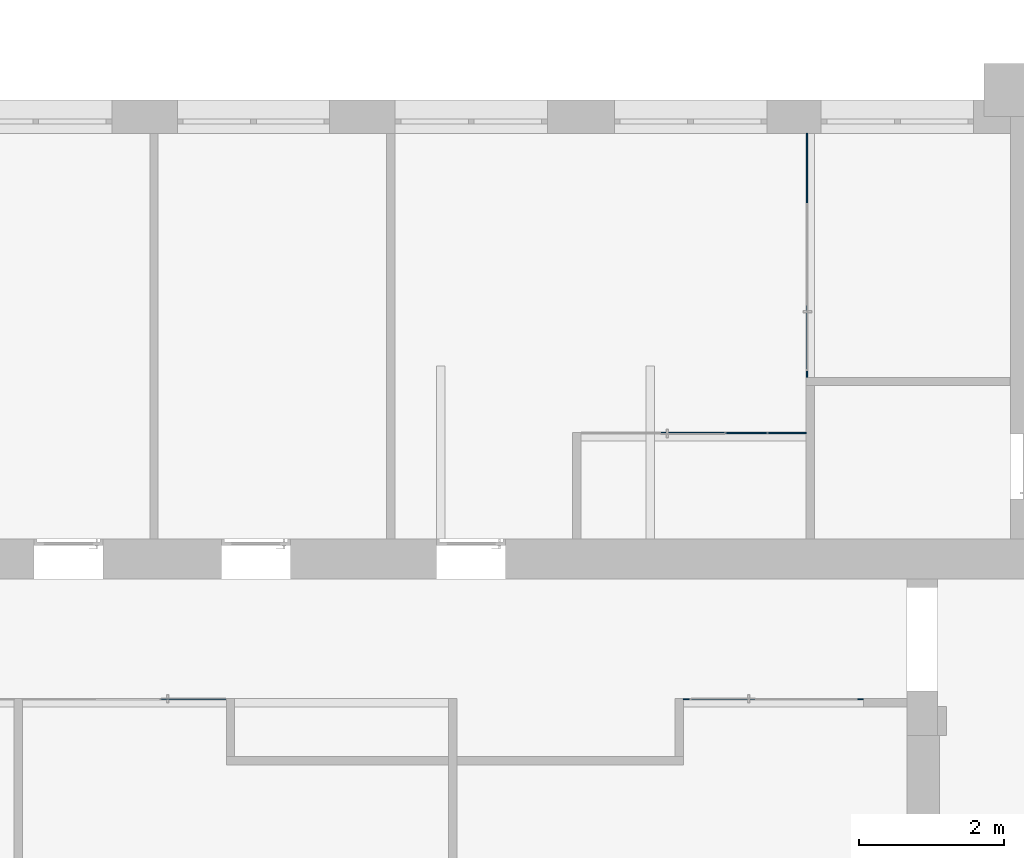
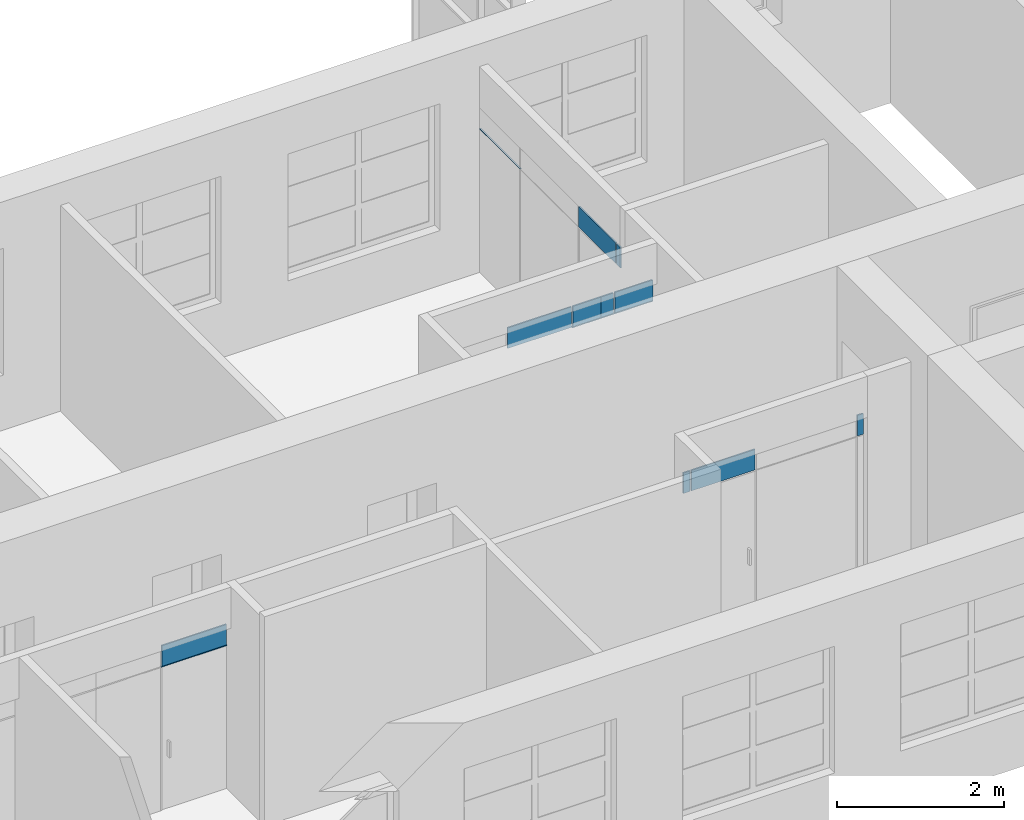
# One storey, part 42 of 73: 15 plates, 4 elements without a shape of their own.
"""IFC2X3 building model written with IfcOpenShell, lengths in millimetres."""

from ifc_helpers import new_model, entity, si_unit, converted_unit, derived_unit, direction, frame, origin, origin_2d_with_axis, place, context, subcontext, project, spatial, rectangle, extrude, source, transform, mapped, material, layer, layer_set, layer_usage, type_object, type_shapes, element, aggregate, save


model = new_model("IFC2X3")

# Units and contexts
model_context = context("Model", 3, precision=0.01, world=origin(), true_north=direction((6.12303176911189e-17, 1.0)))
body_context = subcontext(model_context, "Body", "Model", "MODEL_VIEW")
ifc_project = project(units=[si_unit("LENGTHUNIT", "METRE", prefix="MILLI"), si_unit("AREAUNIT", "SQUARE_METRE"), si_unit("VOLUMEUNIT", "CUBIC_METRE"), converted_unit("PLANEANGLEUNIT", "DEGREE", entity("IfcRatioMeasure", 0.0174532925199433), si_unit("PLANEANGLEUNIT", "RADIAN"), dimensions=[0, 0, 0, 0, 0, 0, 0]), si_unit("MASSUNIT", "GRAM", prefix="KILO"), derived_unit("MASSDENSITYUNIT", [(si_unit("MASSUNIT", "GRAM", prefix="KILO"), 1), (si_unit("LENGTHUNIT", "METRE"), -3)]), si_unit("TIMEUNIT", "SECOND"), si_unit("FREQUENCYUNIT", "HERTZ"), si_unit("THERMODYNAMICTEMPERATUREUNIT", "DEGREE_CELSIUS"), derived_unit("THERMALTRANSMITTANCEUNIT", [(si_unit("MASSUNIT", "GRAM", prefix="KILO"), 1), (si_unit("THERMODYNAMICTEMPERATUREUNIT", "KELVIN"), -1), (si_unit("TIMEUNIT", "SECOND"), -3)]), derived_unit("VOLUMETRICFLOWRATEUNIT", [(si_unit("LENGTHUNIT", "METRE"), 3), (si_unit("TIMEUNIT", "SECOND"), -1)]), si_unit("ELECTRICCURRENTUNIT", "AMPERE"), si_unit("ELECTRICVOLTAGEUNIT", "VOLT"), si_unit("POWERUNIT", "WATT"), si_unit("FORCEUNIT", "NEWTON", prefix="KILO"), si_unit("ILLUMINANCEUNIT", "LUX"), si_unit("LUMINOUSFLUXUNIT", "LUMEN"), si_unit("LUMINOUSINTENSITYUNIT", "CANDELA"), derived_unit("USERDEFINED", [(si_unit("MASSUNIT", "GRAM", prefix="KILO"), -1), (si_unit("LENGTHUNIT", "METRE"), -2), (si_unit("TIMEUNIT", "SECOND"), 3), (si_unit("LUMINOUSFLUXUNIT", "LUMEN"), 1)]), derived_unit("LINEARVELOCITYUNIT", [(si_unit("LENGTHUNIT", "METRE"), 1), (si_unit("TIMEUNIT", "SECOND"), -1)]), si_unit("PRESSUREUNIT", "PASCAL"), derived_unit("USERDEFINED", [(si_unit("LENGTHUNIT", "METRE"), -2), (si_unit("MASSUNIT", "GRAM", prefix="KILO"), 1), (si_unit("TIMEUNIT", "SECOND"), -2)])], contexts=[model_context])

# Site, building, storey
site_placement = place(None, frame((-151.875543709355, 2715.0, 0.0)))
site = spatial("IfcSite", under=ifc_project, at=site_placement, Name="Surface", CompositionType="ELEMENT")
building_placement = place(site_placement, origin())
building = spatial("IfcBuilding", under=site, at=building_placement, CompositionType="ELEMENT")
storey_placement = place(building_placement, frame((0.0, 0.0, 6730.43000000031)))
storey = spatial("IfcBuildingStorey", under=building, at=storey_placement, Name="3 korrus", CompositionType="ELEMENT", Elevation=6730.43000000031)

# Curtain wall, plate
curtain_wall_type_1 = type_object("IfcCurtainWallType", Name="Curtain Wall:Klaassein KLS-19", PredefinedType="NOTDEFINED")
curtain_wall_1_placement = place(storey_placement, frame((0.0, 0.0, -6730.43000000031)))
curtain_wall_1 = element("IfcCurtainWall", 1, at=curtain_wall_1_placement, inside=storey, type_object=curtain_wall_type_1, Name="Curtain Wall:Klaassein KLS-19", ObjectType="Curtain Wall:Klaassein KLS-19")
ifc_material = material(Name="<Unnamed>")
ifc_layer = layer(ifc_material, 20.0)
ifc_layer_set = layer_set([ifc_layer], Name="Curtain Wall:Klaassein KLS-01")
ifc_layer_usage_1 = layer_usage(ifc_layer_set, "AXIS3", "POSITIVE", 0.0)
plate_type_1 = type_object("IfcPlateType", Name="Glazed", PredefinedType="CURTAIN_PANEL", material=ifc_layer_set)
shared_shape_1 = source(origin(), body_context, "Body", "SweptSolid", [
    extrude(rectangle(XDim=20.0, YDim=900.0000003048, at=origin_2d_with_axis()), frame((0.0, 0.0, 0.0), z_axis=(0.0, 0.0, 1.0), x_axis=(0.0, 1.0, 0.0)), (0.0, 0.0, 1.0), 9.99999999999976),
])
type_shapes(plate_type_1, [shared_shape_1])
plate_1_placement = place(curtain_wall_1_placement, frame((20713.0647262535, 4355.04493399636, 8820.43000000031), z_axis=(0.0, 0.0, 1.0), x_axis=(-1.0, 0.0, 0.0)))
plate_1 = element("IfcPlate", 2, at=plate_1_placement, type_object=plate_type_1, material=ifc_layer_usage_1, Name="System Panel:Glazed", ObjectType="Glazed", context=body_context, shape_type="MappedRepresentation", body=[
    mapped(shared_shape_1, transform((0.0, 0.0, 0.0), scale=1.0)),
])

curtain_wall_type_2 = type_object("IfcCurtainWallType", Name="Curtain Wall:Klaassein KLS-20", PredefinedType="NOTDEFINED")
curtain_wall_2_placement = place(storey_placement, frame((0.0, 0.0, -6730.43000000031)))
curtain_wall_2 = element("IfcCurtainWall", 3, at=curtain_wall_2_placement, inside=storey, type_object=curtain_wall_type_2, Name="Curtain Wall:Klaassein KLS-20", ObjectType="Curtain Wall:Klaassein KLS-20")
ifc_layer_usage_2 = layer_usage(ifc_layer_set, "AXIS3", "POSITIVE", 0.0)
plate_type_2 = type_object("IfcPlateType", Name="Glazed", PredefinedType="CURTAIN_PANEL", material=ifc_layer_set)
shared_shape_2 = source(origin(), body_context, "Body", "SweptSolid", [
    extrude(rectangle(XDim=20.0, YDim=879.999999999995, at=origin_2d_with_axis()), frame((0.0, 0.0, 0.0), z_axis=(0.0, 0.0, 1.0), x_axis=(0.0, 1.0, 0.0)), (0.0, 0.0, 1.0), 299.999999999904),
])
type_shapes(plate_type_2, [shared_shape_2])
plate_2_placement = place(curtain_wall_2_placement, frame((28011.564726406, 4355.04493399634, 8830.43000000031), z_axis=(0.0, 0.0, 1.0), x_axis=(-1.0, 0.0, 0.0)))
plate_2 = element("IfcPlate", 4, at=plate_2_placement, type_object=plate_type_2, material=ifc_layer_usage_2, Name="System Panel:Glazed", ObjectType="Glazed", context=body_context, shape_type="MappedRepresentation", body=[
    mapped(shared_shape_2, transform((0.0, 0.0, 0.0), scale=1.0)),
])

curtain_wall_type_3 = type_object("IfcCurtainWallType", Name="Curtain Wall:Klaassein KLS-21", PredefinedType="NOTDEFINED")
curtain_wall_3_placement = place(storey_placement, frame((0.0, 0.0, -6730.43000000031)))
curtain_wall_3 = element("IfcCurtainWall", 5, at=curtain_wall_3_placement, inside=storey, type_object=curtain_wall_type_3, Name="Curtain Wall:Klaassein KLS-21", ObjectType="Curtain Wall:Klaassein KLS-21")
ifc_layer_usage_3 = layer_usage(ifc_layer_set, "AXIS3", "POSITIVE", 0.0)
plate_3_placement = place(curtain_wall_3_placement, frame((27594.1393811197, 8021.06145812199, 8830.43000000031), z_axis=(0.0, 0.0, 1.0), x_axis=(-1.0, 0.0, 0.0)))
plate_3 = element("IfcPlate", 6, at=plate_3_placement, type_object=plate_type_2, material=ifc_layer_usage_3, Name="System Panel:Glazed", ObjectType="Glazed", context=body_context, shape_type="MappedRepresentation", body=[
    mapped(shared_shape_2, transform((0.0, 0.0, 0.0), scale=1.0)),
])

curtain_wall_type_4 = type_object("IfcCurtainWallType", Name="Curtain Wall:Klaassein KLS-22", PredefinedType="NOTDEFINED")
curtain_wall_4_placement = place(storey_placement, frame((0.0, 0.0, -6730.43000000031)))
curtain_wall_4 = element("IfcCurtainWall", 7, at=curtain_wall_4_placement, inside=storey, type_object=curtain_wall_type_4, Name="Curtain Wall:Klaassein KLS-22", ObjectType="Curtain Wall:Klaassein KLS-22")
ifc_layer_usage_4 = layer_usage(ifc_layer_set, "AXIS3", "POSITIVE", 0.0)
plate_4_placement = place(curtain_wall_4_placement, frame((29165.6162681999, 9339.8297238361, 8830.43000000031), z_axis=(0.0, 0.0, 1.0), x_axis=(0.0, -1.0, 0.0)))
plate_4 = element("IfcPlate", 8, at=plate_4_placement, type_object=plate_type_2, material=ifc_layer_usage_4, Name="System Panel:Glazed", ObjectType="Glazed", context=body_context, shape_type="MappedRepresentation", body=[
    mapped(shared_shape_2, transform((0.0, 0.0, 0.0), scale=1.0)),
])

# Plate
ifc_layer_usage_5 = layer_usage(ifc_layer_set, "AXIS3", "POSITIVE", 0.0)
plate_type_3 = type_object("IfcPlateType", Name="Glazed", PredefinedType="CURTAIN_PANEL", material=ifc_layer_set)
shared_shape_3 = source(origin(), body_context, "Body", "SweptSolid", [
    extrude(rectangle(XDim=20.0, YDim=82.9293200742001, at=origin_2d_with_axis()), frame((0.0, 0.0, 0.0), z_axis=(0.0, 0.0, 1.0), x_axis=(0.0, 1.0, 0.0)), (0.0, 0.0, 1.0), 299.999999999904),
])
type_shapes(plate_type_3, [shared_shape_3])
plate_5_placement = place(curtain_wall_2_placement, frame((29902.5524993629, 4355.04493399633, 8830.43000000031), z_axis=(0.0, 0.0, 1.0), x_axis=(-1.0, 0.0, 0.0)))
plate_5 = element("IfcPlate", 9, at=plate_5_placement, type_object=plate_type_3, material=ifc_layer_usage_5, Name="System Panel:Glazed", ObjectType="Glazed", context=body_context, shape_type="MappedRepresentation", body=[
    mapped(shared_shape_3, transform((0.0, 0.0, 0.0), scale=1.0)),
])

ifc_layer_usage_6 = layer_usage(ifc_layer_set, "AXIS3", "POSITIVE", 0.0)
plate_type_4 = type_object("IfcPlateType", Name="Glazed", PredefinedType="CURTAIN_PANEL", material=ifc_layer_set)
shared_shape_4 = source(origin(), body_context, "Body", "SweptSolid", [
    extrude(rectangle(XDim=20.0, YDim=87.9999999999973, at=origin_2d_with_axis()), frame((0.0, 0.0, 0.0), z_axis=(0.0, 0.0, 1.0), x_axis=(0.0, 1.0, 0.0)), (0.0, 0.0, 1.0), 299.999999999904),
])
type_shapes(plate_type_4, [shared_shape_4])
plate_6_placement = place(curtain_wall_2_placement, frame((27507.564726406, 4355.04493399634, 8830.43000000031), z_axis=(0.0, 0.0, 1.0), x_axis=(-1.0, 0.0, 0.0)))
plate_6 = element("IfcPlate", 10, at=plate_6_placement, type_object=plate_type_4, material=ifc_layer_usage_6, Name="System Panel:Glazed", ObjectType="Glazed", context=body_context, shape_type="MappedRepresentation", body=[
    mapped(shared_shape_4, transform((0.0, 0.0, 0.0), scale=1.0)),
])

aggregate(curtain_wall_2, [plate_5, plate_2, plate_6])

ifc_layer_usage_7 = layer_usage(ifc_layer_set, "AXIS3", "POSITIVE", 0.0)
plate_type_5 = type_object("IfcPlateType", Name="Glazed", PredefinedType="CURTAIN_PANEL", material=ifc_layer_set)
shared_shape_5 = source(origin(), body_context, "Body", "SweptSolid", [
    extrude(rectangle(XDim=20.0, YDim=891.000000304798, at=origin_2d_with_axis()), frame((0.0, 0.0, 0.0), z_axis=(0.0, 0.0, 1.0), x_axis=(0.0, 1.0, 0.0)), (0.0, 0.0, 1.0), 299.999999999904),
])
type_shapes(plate_type_5, [shared_shape_5])
plate_7_placement = place(curtain_wall_1_placement, frame((20717.5647262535, 4355.04493399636, 8830.43000000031), z_axis=(0.0, 0.0, 1.0), x_axis=(-1.0, 0.0, 0.0)))
plate_7 = element("IfcPlate", 11, at=plate_7_placement, type_object=plate_type_5, material=ifc_layer_usage_7, Name="System Panel:Glazed", ObjectType="Glazed", context=body_context, shape_type="MappedRepresentation", body=[
    mapped(shared_shape_5, transform((0.0, 0.0, 0.0), scale=1.0)),
])

aggregate(curtain_wall_1, [plate_1, plate_7])

ifc_layer_usage_8 = layer_usage(ifc_layer_set, "AXIS3", "POSITIVE", 0.0)
plate_type_6 = type_object("IfcPlateType", Name="Glazed", PredefinedType="CURTAIN_PANEL", material=ifc_layer_set)
shared_shape_6 = source(origin(), body_context, "Body", "SweptSolid", [
    extrude(rectangle(XDim=20.0, YDim=89.9999999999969, at=origin_2d_with_axis()), frame((0.0, 0.0, 0.0), z_axis=(0.0, 0.0, 1.0), x_axis=(0.0, 1.0, 0.0)), (0.0, 0.0, 1.0), 299.999999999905),
])
type_shapes(plate_type_6, [shared_shape_6])
plate_8_placement = place(curtain_wall_4_placement, frame((29165.6162681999, 8834.8297238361, 8830.43000000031), z_axis=(0.0, 0.0, 1.0), x_axis=(0.0, -1.0, 0.0)))
plate_8 = element("IfcPlate", 12, at=plate_8_placement, type_object=plate_type_6, material=ifc_layer_usage_8, Name="System Panel:Glazed", ObjectType="Glazed", context=body_context, shape_type="MappedRepresentation", body=[
    mapped(shared_shape_6, transform((0.0, 0.0, 0.0), scale=1.0)),
])

ifc_layer_usage_9 = layer_usage(ifc_layer_set, "AXIS3", "POSITIVE", 0.0)
plate_type_7 = type_object("IfcPlateType", Name="Glazed", PredefinedType="CURTAIN_PANEL", material=ifc_layer_set)
shared_shape_7 = source(origin(), body_context, "Body", "SweptSolid", [
    extrude(rectangle(XDim=20.0, YDim=532.547567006, at=origin_2d_with_axis()), frame((0.0, 0.0, 0.0), z_axis=(0.0, 0.0, 1.0), x_axis=(0.0, 1.0, 0.0)), (0.0, 0.0, 1.0), 9.99999999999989),
])
type_shapes(plate_type_7, [shared_shape_7])
plate_9_placement = place(curtain_wall_3_placement, frame((28889.3424846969, 8021.06145812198, 8820.43000000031), z_axis=(0.0, 0.0, 1.0), x_axis=(-1.0, 0.0, 0.0)))
plate_9 = element("IfcPlate", 13, at=plate_9_placement, type_object=plate_type_7, material=ifc_layer_usage_9, Name="System Panel:Glazed", ObjectType="Glazed", context=body_context, shape_type="MappedRepresentation", body=[
    mapped(shared_shape_7, transform((0.0, 0.0, 0.0), scale=1.0)),
])

ifc_layer_usage_10 = layer_usage(ifc_layer_set, "AXIS3", "POSITIVE", 0.0)
plate_type_8 = type_object("IfcPlateType", Name="Glazed", PredefinedType="CURTAIN_PANEL", material=ifc_layer_set)
shared_shape_8 = source(origin(), body_context, "Body", "SweptSolid", [
    extrude(rectangle(XDim=20.0, YDim=178.929320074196, at=origin_2d_with_axis()), frame((0.0, 0.0, 0.0), z_axis=(0.0, 0.0, 1.0), x_axis=(0.0, 1.0, 0.0)), (0.0, 0.0, 1.0), 9.99999999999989),
])
type_shapes(plate_type_8, [shared_shape_8])
plate_10_placement = place(curtain_wall_3_placement, frame((28533.6040411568, 8021.06145812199, 8820.43000000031), z_axis=(0.0, 0.0, 1.0), x_axis=(-1.0, 0.0, 0.0)))
plate_10 = element("IfcPlate", 14, at=plate_10_placement, type_object=plate_type_8, material=ifc_layer_usage_10, Name="System Panel:Glazed", ObjectType="Glazed", context=body_context, shape_type="MappedRepresentation", body=[
    mapped(shared_shape_8, transform((0.0, 0.0, 0.0), scale=1.0)),
])

ifc_layer_usage_11 = layer_usage(ifc_layer_set, "AXIS3", "POSITIVE", 0.0)
plate_type_9 = type_object("IfcPlateType", Name="Glazed", PredefinedType="CURTAIN_PANEL", material=ifc_layer_set)
shared_shape_9 = source(origin(), body_context, "Body", "SweptSolid", [
    extrude(rectangle(XDim=20.0, YDim=400.0, at=origin_2d_with_axis()), frame((0.0, 0.0, 0.0), z_axis=(0.0, 0.0, 1.0), x_axis=(0.0, 1.0, 0.0)), (0.0, 0.0, 1.0), 9.99999999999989),
])
type_shapes(plate_type_9, [shared_shape_9])
plate_11_placement = place(curtain_wall_3_placement, frame((28244.1393811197, 8021.06145812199, 8820.43000000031), z_axis=(0.0, 0.0, 1.0), x_axis=(-1.0, 0.0, 0.0)))
plate_11 = element("IfcPlate", 15, at=plate_11_placement, type_object=plate_type_9, material=ifc_layer_usage_11, Name="System Panel:Glazed", ObjectType="Glazed", context=body_context, shape_type="MappedRepresentation", body=[
    mapped(shared_shape_9, transform((0.0, 0.0, 0.0), scale=1.0)),
])

ifc_layer_usage_12 = layer_usage(ifc_layer_set, "AXIS3", "POSITIVE", 0.0)
plate_type_10 = type_object("IfcPlateType", Name="Glazed", PredefinedType="CURTAIN_PANEL", material=ifc_layer_set)
shared_shape_10 = source(origin(), body_context, "Body", "SweptSolid", [
    extrude(rectangle(XDim=20.0, YDim=522.547567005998, at=origin_2d_with_axis()), frame((0.0, 0.0, 0.0), z_axis=(0.0, 0.0, 1.0), x_axis=(0.0, 1.0, 0.0)), (0.0, 0.0, 1.0), 299.999999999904),
])
type_shapes(plate_type_10, [shared_shape_10])
plate_12_placement = place(curtain_wall_3_placement, frame((28894.3424846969, 8021.06145812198, 8830.43000000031), z_axis=(0.0, 0.0, 1.0), x_axis=(-1.0, 0.0, 0.0)))
plate_12 = element("IfcPlate", 16, at=plate_12_placement, type_object=plate_type_10, material=ifc_layer_usage_12, Name="System Panel:Glazed", ObjectType="Glazed", context=body_context, shape_type="MappedRepresentation", body=[
    mapped(shared_shape_10, transform((0.0, 0.0, 0.0), scale=1.0)),
])

ifc_layer_usage_13 = layer_usage(ifc_layer_set, "AXIS3", "POSITIVE", 0.0)
plate_type_11 = type_object("IfcPlateType", Name="Glazed", PredefinedType="CURTAIN_PANEL", material=ifc_layer_set)
shared_shape_11 = source(origin(), body_context, "Body", "SweptSolid", [
    extrude(rectangle(XDim=20.0, YDim=168.929320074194, at=origin_2d_with_axis()), frame((0.0, 0.0, 0.0), z_axis=(0.0, 0.0, 1.0), x_axis=(0.0, 1.0, 0.0)), (0.0, 0.0, 1.0), 299.999999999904),
])
type_shapes(plate_type_11, [shared_shape_11])
plate_13_placement = place(curtain_wall_3_placement, frame((28528.6040411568, 8021.06145812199, 8830.43000000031), z_axis=(0.0, 0.0, 1.0), x_axis=(-1.0, 0.0, 0.0)))
plate_13 = element("IfcPlate", 17, at=plate_13_placement, type_object=plate_type_11, material=ifc_layer_usage_13, Name="System Panel:Glazed", ObjectType="Glazed", context=body_context, shape_type="MappedRepresentation", body=[
    mapped(shared_shape_11, transform((0.0, 0.0, 0.0), scale=1.0)),
])

ifc_layer_usage_14 = layer_usage(ifc_layer_set, "AXIS3", "POSITIVE", 0.0)
plate_type_12 = type_object("IfcPlateType", Name="Glazed", PredefinedType="CURTAIN_PANEL", material=ifc_layer_set)
shared_shape_12 = source(origin(), body_context, "Body", "SweptSolid", [
    extrude(rectangle(XDim=20.0, YDim=389.999999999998, at=origin_2d_with_axis()), frame((0.0, 0.0, 0.0), z_axis=(0.0, 0.0, 1.0), x_axis=(0.0, 1.0, 0.0)), (0.0, 0.0, 1.0), 299.999999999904),
])
type_shapes(plate_type_12, [shared_shape_12])
plate_14_placement = place(curtain_wall_3_placement, frame((28249.1393811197, 8021.06145812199, 8830.43000000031), z_axis=(0.0, 0.0, 1.0), x_axis=(-1.0, 0.0, 0.0)))
plate_14 = element("IfcPlate", 18, at=plate_14_placement, type_object=plate_type_12, material=ifc_layer_usage_14, Name="System Panel:Glazed", ObjectType="Glazed", context=body_context, shape_type="MappedRepresentation", body=[
    mapped(shared_shape_12, transform((0.0, 0.0, 0.0), scale=1.0)),
])

aggregate(curtain_wall_3, [plate_9, plate_10, plate_11, plate_12, plate_13, plate_14, plate_3])

ifc_layer_usage_15 = layer_usage(ifc_layer_set, "AXIS3", "POSITIVE", 0.0)
plate_type_13 = type_object("IfcPlateType", Name="Glazed", PredefinedType="CURTAIN_PANEL", material=ifc_layer_set)
shared_shape_13 = source(origin(), body_context, "Body", "SweptSolid", [
    extrude(rectangle(XDim=20.0, YDim=970.647163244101, at=origin_2d_with_axis()), frame((0.0, 0.0, 0.0), z_axis=(0.0, 0.0, 1.0), x_axis=(0.0, 1.0, 0.0)), (0.0, 0.0, 1.0), 9.99999999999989),
])
type_shapes(plate_type_13, [shared_shape_13])
plate_15_placement = place(curtain_wall_4_placement, frame((29165.6162681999, 11664.676418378, 8820.43000000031), z_axis=(0.0, 0.0, 1.0), x_axis=(0.0, -1.0, 0.0)))
plate_15 = element("IfcPlate", 19, at=plate_15_placement, type_object=plate_type_13, material=ifc_layer_usage_15, Name="System Panel:Glazed", ObjectType="Glazed", context=body_context, shape_type="MappedRepresentation", body=[
    mapped(shared_shape_13, transform((0.0, 0.0, 0.0), scale=1.0)),
])

aggregate(curtain_wall_4, [plate_15, plate_4, plate_8])

save(model, "model.ifc")
